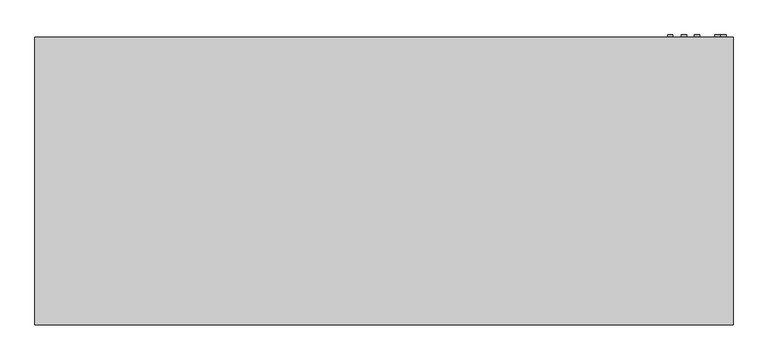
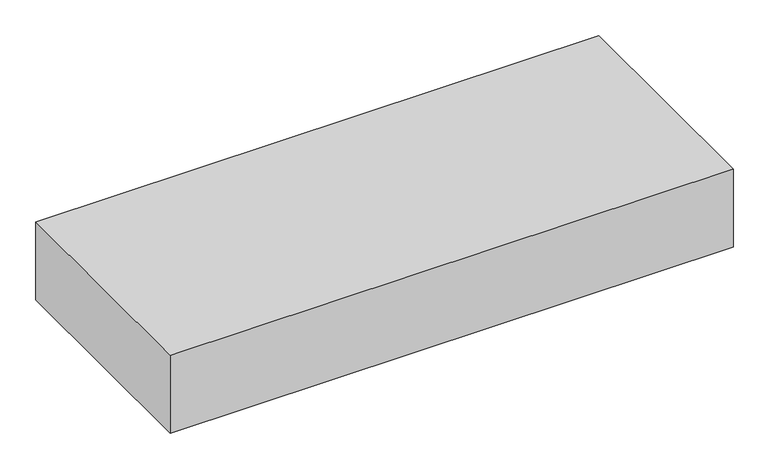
"""IFC4 building model written with IfcOpenShell, lengths in millimetres: proxy geometry, Exposed_Horizontal_Fan_Coil_Unit_-_42CGB_-_CARRIER_-_4-Pipe_BS-BR_RH_2022 : Size 12 - 277v/60Hz/1Ph - 4/1 Coil."""

from ifc_helpers import new_model, si_unit, point, frame, frame_2d, origin, place, context, project, spatial, polyline, circle_curve, trimmed, segment, composite_curve, outline, extrude, source, transform, mapped, element, save


def mechanical_equipment_1a19e6a5(model_context):
    return source(origin(), model_context, "Body", "SweptSolid", [
        extrude(outline(polyline([(925.5125, -433.3875), (925.5125, -604.8375), (-620.7125, -604.8375), (-620.7125, -433.3875), (925.5125, -433.3875)])), frame((0.0, 0.0, -311.15), z_axis=(0.0, 0.0, 1.0), x_axis=(1.0, 0.0, 0.0)), (0.0, 0.0, 1.0), 6.35),
        extrude(outline(composite_curve([segment(trimmed(circle_curve(frame_2d((-85.725, 1165.225)), 7.9375), [point((-85.725, 1173.1625))], [point((-85.725, 1157.2875))], False, "CARTESIAN"), True, "CONTINUOUS"), segment(trimmed(circle_curve(frame_2d((-85.725, 1165.225)), 7.9375), [point((-85.725, 1157.2875))], [point((-85.725, 1173.1625))], False, "CARTESIAN"), True, "CONTINUOUS")], self_intersect=False)), frame((0.0, 192.0875, 0.0), z_axis=(0.0, 1.0, 0.0), x_axis=(0.0, 0.0, 1.0)), (0.0, 0.0, 1.0), 6.35),
        extrude(outline(composite_curve([segment(trimmed(circle_curve(frame_2d((-44.45, 1085.85)), 7.9375), [point((-44.45, 1093.7875))], [point((-44.45, 1077.9125))], False, "CARTESIAN"), True, "CONTINUOUS"), segment(trimmed(circle_curve(frame_2d((-44.45, 1085.85)), 7.9375), [point((-44.45, 1077.9125))], [point((-44.45, 1093.7875))], False, "CARTESIAN"), True, "CONTINUOUS")], self_intersect=False)), frame((0.0, 192.0875, 0.0), z_axis=(0.0, 1.0, 0.0), x_axis=(0.0, 0.0, 1.0)), (0.0, 0.0, 1.0), 6.35),
        extrude(outline(composite_curve([segment(trimmed(circle_curve(frame_2d((-95.25, 1047.75)), 7.9375), [point((-95.25, 1055.6875))], [point((-95.25, 1039.8125))], False, "CARTESIAN"), True, "CONTINUOUS"), segment(trimmed(circle_curve(frame_2d((-95.25, 1047.75)), 7.9375), [point((-95.25, 1039.8125))], [point((-95.25, 1055.6875))], False, "CARTESIAN"), True, "CONTINUOUS")], self_intersect=False)), frame((0.0, 192.0875, 0.0), z_axis=(0.0, 1.0, 0.0), x_axis=(0.0, 0.0, 1.0)), (0.0, 0.0, 1.0), 6.35),
        extrude(outline(composite_curve([segment(trimmed(circle_curve(frame_2d((-60.325, 1006.475)), 7.9375), [point((-60.325, 1014.4125))], [point((-60.325, 998.5375))], False, "CARTESIAN"), True, "CONTINUOUS"), segment(trimmed(circle_curve(frame_2d((-60.325, 1006.475)), 7.9375), [point((-60.325, 998.5375))], [point((-60.325, 1014.4125))], False, "CARTESIAN"), True, "CONTINUOUS")], self_intersect=False)), frame((0.0, 192.0875, 0.0), z_axis=(0.0, 1.0, 0.0), x_axis=(0.0, 0.0, 1.0)), (0.0, 0.0, 1.0), 6.35),
        extrude(outline(composite_curve([segment(trimmed(circle_curve(frame_2d((-260.35, 1149.35)), 9.525), [point((-260.35, 1158.875))], [point((-260.35, 1139.825))], False, "CARTESIAN"), True, "CONTINUOUS"), segment(trimmed(circle_curve(frame_2d((-260.35, 1149.35)), 9.525), [point((-260.35, 1139.825))], [point((-260.35, 1158.875))], False, "CARTESIAN"), True, "CONTINUOUS")], self_intersect=False)), frame((0.0, 192.0875, 0.0), z_axis=(0.0, 1.0, 0.0), x_axis=(0.0, 0.0, 1.0)), (0.0, 0.0, 1.0), 6.35),
        extrude(outline(polyline([(-889.0, 192.0875), (1193.8, 192.0875), (1193.8, -668.3375), (-889.0, -668.3375), (-889.0, 192.0875)])), frame((0.0, 0.0, -304.8), z_axis=(0.0, 0.0, 1.0), x_axis=(1.0, 0.0, 0.0)), (0.0, 0.0, 1.0), 304.8),
        extrude(outline(polyline([(952.5, 115.8875), (952.5, -138.1125), (-647.7, -138.1125), (-647.7, 115.8875), (952.5, 115.8875)])), frame((0.0, 0.0, -311.15), z_axis=(0.0, 0.0, 1.0), x_axis=(1.0, 0.0, 0.0)), (0.0, 0.0, 1.0), 6.35),
    ])


if __name__ == "__main__":
    model = new_model("IFC4")
    model_context = context("Model", 3, world=origin())
    ifc_project = project(units=[si_unit("LENGTHUNIT", "METRE", prefix="MILLI")], contexts=[model_context])
    site = spatial("IfcSite", under=ifc_project)
    building = spatial("IfcBuilding", under=site)
    placement = place(None, origin())
    mechanical_equipment_shape = mechanical_equipment_1a19e6a5(model_context)
    element("IfcBuildingElementProxy", 1, Name="Exposed_Horizontal_Fan_Coil_Unit_-_42CGB_-_CARRIER_-_4-Pipe_BS-BR_RH_2022 : Size 12 - 277v/60Hz/1Ph - 4/1 Coil", ObjectType="Exposed_Horizontal_Fan_Coil_Unit_-_42CGB_-_CARRIER_-_4-Pipe_BS-BR_RH_2022 : Size 12 - 277v/60Hz/1Ph - 4/1 Coil", at=placement, inside=building, context=model_context, shape_type="MappedRepresentation", body=[
        mapped(mechanical_equipment_shape, transform((0.0, 0.0, 0.0), x_axis=(1.0, 0.0, 0.0), y_axis=(0.0, 1.0, 0.0), z_axis=(0.0, 0.0, 1.0))),
    ])
    save(model, "model.ifc")
